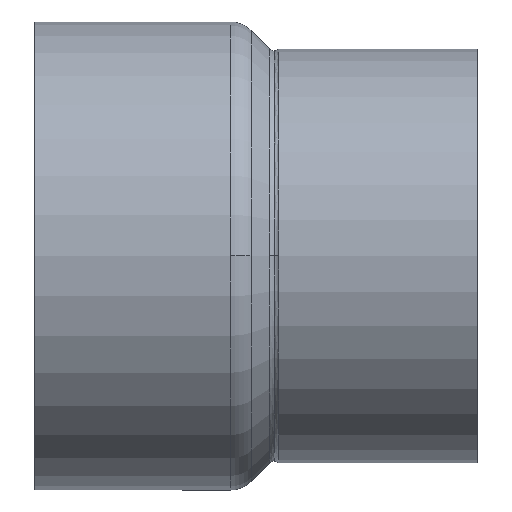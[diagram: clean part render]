
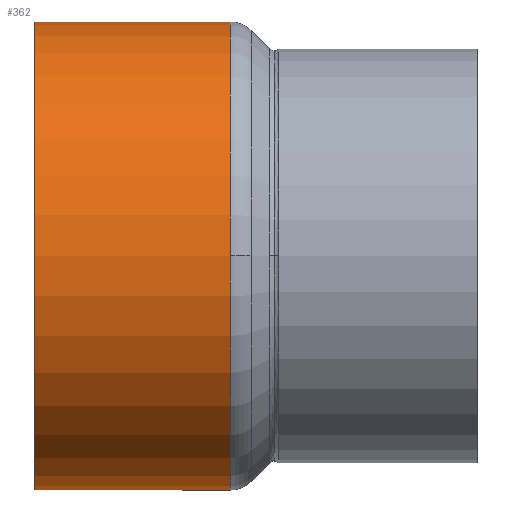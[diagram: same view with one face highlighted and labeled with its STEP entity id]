
A CAD part, top view. The second image highlights one B-rep face of the part: STEP entity #362.
In plain terms, the highlighted cylindrical face has radius 40.2 mm (diameter 80.4 mm), a partial arc.
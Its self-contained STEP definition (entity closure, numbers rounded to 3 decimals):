
#312=CARTESIAN_POINT('',(16.804,0.0,0.0));
#313=DIRECTION('',(1.0,0.0,0.0));
#314=DIRECTION('',(0.0,1.0,0.0));
#315=AXIS2_PLACEMENT_3D('',#312,#313,#314);
#316=CYLINDRICAL_SURFACE('',#315,40.2);
#317=CARTESIAN_POINT('',(0.,40.2,0.0));
#318=VERTEX_POINT('',#317);
#319=CARTESIAN_POINT('',(33.607,40.2,0.0));
#320=VERTEX_POINT('',#319);
#321=CARTESIAN_POINT('',(0.,40.2,0.0));
#322=DIRECTION('',(1.0,0.0,0.0));
#323=VECTOR('',#322,33.607);
#324=LINE('',#321,#323);
#325=EDGE_CURVE('',#318,#320,#324,.T.);
#326=ORIENTED_EDGE('',*,*,#325,.F.);
#327=CARTESIAN_POINT('',(0.,-40.2,0.));
#328=VERTEX_POINT('',#327);
#329=CARTESIAN_POINT('',(0.,0.0,0.0));
#330=DIRECTION('',(1.0,0.0,0.0));
#331=DIRECTION('',(0.0,1.0,0.0));
#332=AXIS2_PLACEMENT_3D('',#329,#330,#331);
#333=CIRCLE('',#332,40.2);
#334=EDGE_CURVE('',#318,#328,#333,.T.);
#335=ORIENTED_EDGE('',*,*,#334,.T.);
#336=CARTESIAN_POINT('',(33.607,-40.2,0.));
#337=VERTEX_POINT('',#336);
#338=CARTESIAN_POINT('',(33.607,-40.2,0.));
#339=DIRECTION('',(-1.0,0.0,0.0));
#340=VECTOR('',#339,33.607);
#341=LINE('',#338,#340);
#342=EDGE_CURVE('',#337,#328,#341,.T.);
#343=ORIENTED_EDGE('',*,*,#342,.F.);
#344=CARTESIAN_POINT('',(33.607,0.,40.2));
#345=VERTEX_POINT('',#344);
#346=CARTESIAN_POINT('',(33.607,0.0,0.0));
#347=DIRECTION('',(1.0,0.0,0.0));
#348=DIRECTION('',(0.0,1.0,0.0));
#349=AXIS2_PLACEMENT_3D('',#346,#347,#348);
#350=CIRCLE('',#349,40.2);
#351=EDGE_CURVE('',#345,#337,#350,.T.);
#352=ORIENTED_EDGE('',*,*,#351,.F.);
#353=CARTESIAN_POINT('',(33.607,0.0,0.0));
#354=DIRECTION('',(1.0,0.0,0.0));
#355=DIRECTION('',(0.0,1.0,0.0));
#356=AXIS2_PLACEMENT_3D('',#353,#354,#355);
#357=CIRCLE('',#356,40.2);
#358=EDGE_CURVE('',#320,#345,#357,.T.);
#359=ORIENTED_EDGE('',*,*,#358,.F.);
#360=EDGE_LOOP('',(#326,#335,#343,#352,#359));
#361=FACE_OUTER_BOUND('',#360,.T.);
#362=ADVANCED_FACE('',(#361),#316,.T.);
